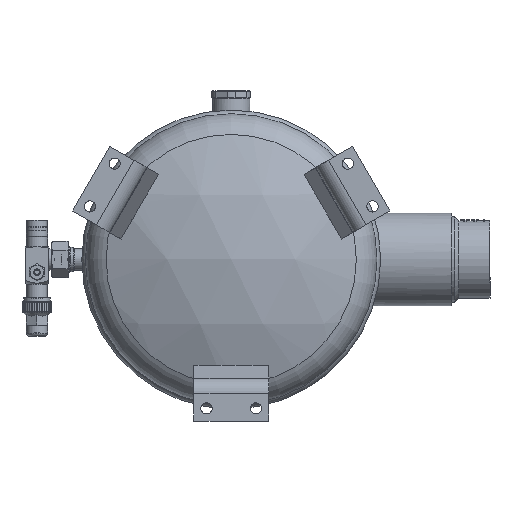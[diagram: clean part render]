
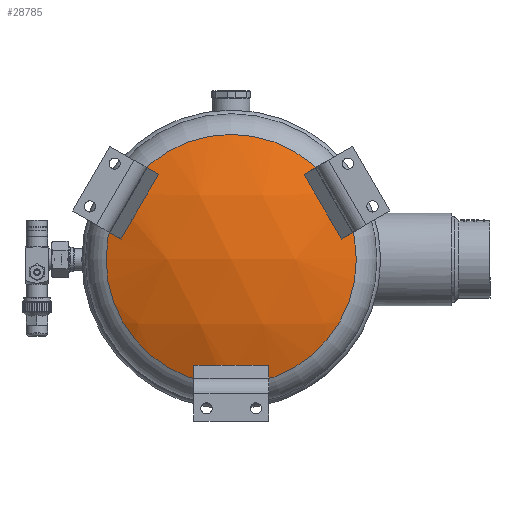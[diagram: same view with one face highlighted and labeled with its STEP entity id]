
A CAD part, front view. The second image highlights one B-rep face of the part: STEP entity #28785.
In plain terms, the highlighted spherical face has radius 279 mm.
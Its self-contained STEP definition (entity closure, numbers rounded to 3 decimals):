
#646=SPHERICAL_SURFACE('',#30947,279.);
#6275=FACE_BOUND('',#9399,.T.);
#6276=FACE_BOUND('',#9400,.T.);
#6277=FACE_BOUND('',#9401,.T.);
#7568=FACE_OUTER_BOUND('',#9398,.T.);
#9398=EDGE_LOOP('',(#20763));
#9399=EDGE_LOOP('',(#20764,#20765,#20766,#20767));
#9400=EDGE_LOOP('',(#20768,#20769,#20770,#20771));
#9401=EDGE_LOOP('',(#20772,#20773,#20774,#20775));
#11442=CIRCLE('',#30948,117.235);
#11443=CIRCLE('',#30949,278.939);
#11444=CIRCLE('',#30950,14.846);
#11445=CIRCLE('',#30951,278.991);
#11446=CIRCLE('',#30952,14.846);
#11447=CIRCLE('',#30953,278.939);
#11448=CIRCLE('',#30954,14.846);
#11449=CIRCLE('',#30955,278.991);
#11450=CIRCLE('',#30956,14.846);
#11451=CIRCLE('',#30957,278.939);
#11452=CIRCLE('',#30958,14.846);
#11453=CIRCLE('',#30959,278.991);
#11454=CIRCLE('',#30960,14.846);
#13079=VERTEX_POINT('',#46378);
#13080=VERTEX_POINT('',#46380);
#13081=VERTEX_POINT('',#46381);
#13082=VERTEX_POINT('',#46383);
#13083=VERTEX_POINT('',#46385);
#13084=VERTEX_POINT('',#46388);
#13085=VERTEX_POINT('',#46389);
#13086=VERTEX_POINT('',#46391);
#13087=VERTEX_POINT('',#46393);
#13088=VERTEX_POINT('',#46396);
#13089=VERTEX_POINT('',#46397);
#13090=VERTEX_POINT('',#46399);
#13091=VERTEX_POINT('',#46401);
#16133=EDGE_CURVE('',#13079,#13079,#11442,.T.);
#16134=EDGE_CURVE('',#13080,#13081,#11443,.T.);
#16135=EDGE_CURVE('',#13081,#13082,#11444,.T.);
#16136=EDGE_CURVE('',#13082,#13083,#11445,.T.);
#16137=EDGE_CURVE('',#13083,#13080,#11446,.T.);
#16138=EDGE_CURVE('',#13084,#13085,#11447,.T.);
#16139=EDGE_CURVE('',#13085,#13086,#11448,.T.);
#16140=EDGE_CURVE('',#13086,#13087,#11449,.T.);
#16141=EDGE_CURVE('',#13087,#13084,#11450,.T.);
#16142=EDGE_CURVE('',#13088,#13089,#11451,.T.);
#16143=EDGE_CURVE('',#13089,#13090,#11452,.T.);
#16144=EDGE_CURVE('',#13090,#13091,#11453,.T.);
#16145=EDGE_CURVE('',#13091,#13088,#11454,.T.);
#20763=ORIENTED_EDGE('',*,*,#16133,.T.);
#20764=ORIENTED_EDGE('',*,*,#16134,.T.);
#20765=ORIENTED_EDGE('',*,*,#16135,.T.);
#20766=ORIENTED_EDGE('',*,*,#16136,.T.);
#20767=ORIENTED_EDGE('',*,*,#16137,.T.);
#20768=ORIENTED_EDGE('',*,*,#16138,.T.);
#20769=ORIENTED_EDGE('',*,*,#16139,.T.);
#20770=ORIENTED_EDGE('',*,*,#16140,.T.);
#20771=ORIENTED_EDGE('',*,*,#16141,.T.);
#20772=ORIENTED_EDGE('',*,*,#16142,.T.);
#20773=ORIENTED_EDGE('',*,*,#16143,.T.);
#20774=ORIENTED_EDGE('',*,*,#16144,.T.);
#20775=ORIENTED_EDGE('',*,*,#16145,.T.);
#28785=ADVANCED_FACE('',(#7568,#6275,#6276,#6277),#646,.T.);
#30947=AXIS2_PLACEMENT_3D('',#46377,#34158,#34159);
#30948=AXIS2_PLACEMENT_3D('',#46379,#34160,#34161);
#30949=AXIS2_PLACEMENT_3D('',#46382,#34162,#34163);
#30950=AXIS2_PLACEMENT_3D('',#46384,#34164,#34165);
#30951=AXIS2_PLACEMENT_3D('',#46386,#34166,#34167);
#30952=AXIS2_PLACEMENT_3D('',#46387,#34168,#34169);
#30953=AXIS2_PLACEMENT_3D('',#46390,#34170,#34171);
#30954=AXIS2_PLACEMENT_3D('',#46392,#34172,#34173);
#30955=AXIS2_PLACEMENT_3D('',#46394,#34174,#34175);
#30956=AXIS2_PLACEMENT_3D('',#46395,#34176,#34177);
#30957=AXIS2_PLACEMENT_3D('',#46398,#34178,#34179);
#30958=AXIS2_PLACEMENT_3D('',#46400,#34180,#34181);
#30959=AXIS2_PLACEMENT_3D('',#46402,#34182,#34183);
#30960=AXIS2_PLACEMENT_3D('',#46403,#34184,#34185);
#34158=DIRECTION('center_axis',(0.,0.,-1.));
#34159=DIRECTION('ref_axis',(-1.,0.,0.));
#34160=DIRECTION('center_axis',(0.,-1.,0.));
#34161=DIRECTION('ref_axis',(-1.,0.,0.));
#34162=DIRECTION('center_axis',(-0.803,-0.375,-0.464));
#34163=DIRECTION('ref_axis',(0.,-0.778,0.629));
#34164=DIRECTION('center_axis',(-0.324,0.927,-0.187));
#34165=DIRECTION('ref_axis',(0.,-0.198,-0.98));
#34166=DIRECTION('center_axis',(0.803,0.375,0.464));
#34167=DIRECTION('ref_axis',(0.,0.778,-0.629));
#34168=DIRECTION('center_axis',(-0.324,0.927,-0.187));
#34169=DIRECTION('ref_axis',(0.,-0.198,-0.98));
#34170=DIRECTION('center_axis',(0.803,-0.375,-0.464));
#34171=DIRECTION('ref_axis',(0.,-0.778,0.629));
#34172=DIRECTION('center_axis',(0.324,0.927,-0.187));
#34173=DIRECTION('ref_axis',(0.,-0.198,-0.98));
#34174=DIRECTION('center_axis',(-0.803,0.375,0.464));
#34175=DIRECTION('ref_axis',(0.,0.778,-0.629));
#34176=DIRECTION('center_axis',(0.324,0.927,-0.187));
#34177=DIRECTION('ref_axis',(0.,-0.198,-0.98));
#34178=DIRECTION('center_axis',(0.,-0.375,
0.927));
#34179=DIRECTION('ref_axis',(0.,0.927,0.375));
#34180=DIRECTION('center_axis',(0.,0.927,
0.375));
#34181=DIRECTION('ref_axis',(0.,0.375,-0.927));
#34182=DIRECTION('center_axis',(0.,0.375,
-0.927));
#34183=DIRECTION('ref_axis',(0.,-0.927,-0.375));
#34184=DIRECTION('center_axis',(0.,0.927,
0.375));
#34185=DIRECTION('ref_axis',(0.,0.375,-0.927));
#46377=CARTESIAN_POINT('Origin',(0.,191.807,
0.));
#46378=CARTESIAN_POINT('',(-117.235,-61.367,0.));
#46379=CARTESIAN_POINT('Origin',(0.,-61.367,
0.));
#46380=CARTESIAN_POINT('',(92.543,-68.69,37.658));
#46381=CARTESIAN_POINT('',(78.885,-68.69,61.316));
#46382=CARTESIAN_POINT('Origin',(-4.671,189.628,-2.697));
#46383=CARTESIAN_POINT('',(84.796,-65.693,65.913));
#46384=CARTESIAN_POINT('Origin',(90.385,-66.511,52.184));
#46385=CARTESIAN_POINT('',(99.48,-65.693,40.479));
#46386=CARTESIAN_POINT('Origin',(1.753,192.625,1.012));
#46387=CARTESIAN_POINT('Origin',(90.385,-66.511,52.184));
#46388=CARTESIAN_POINT('',(-78.885,-68.69,61.316));
#46389=CARTESIAN_POINT('',(-92.543,-68.69,37.658));
#46390=CARTESIAN_POINT('Origin',(4.671,189.628,-2.697));
#46391=CARTESIAN_POINT('',(-99.48,-65.693,40.479));
#46392=CARTESIAN_POINT('Origin',(-90.385,-66.511,52.184));
#46393=CARTESIAN_POINT('',(-84.796,-65.693,65.913));
#46394=CARTESIAN_POINT('Origin',(-1.753,192.625,1.012));
#46395=CARTESIAN_POINT('Origin',(-90.385,-66.511,52.184));
#46396=CARTESIAN_POINT('',(-13.658,-68.69,-98.974));
#46397=CARTESIAN_POINT('',(13.658,-68.69,-98.974));
#46398=CARTESIAN_POINT('Origin',(0.,189.628,
5.393));
#46399=CARTESIAN_POINT('',(14.684,-65.693,-106.391));
#46400=CARTESIAN_POINT('Origin',(0.,-66.511,
-104.367));
#46401=CARTESIAN_POINT('',(-14.684,-65.693,-106.391));
#46402=CARTESIAN_POINT('Origin',(0.,192.625,
-2.024));
#46403=CARTESIAN_POINT('Origin',(0.,-66.511,
-104.367));
